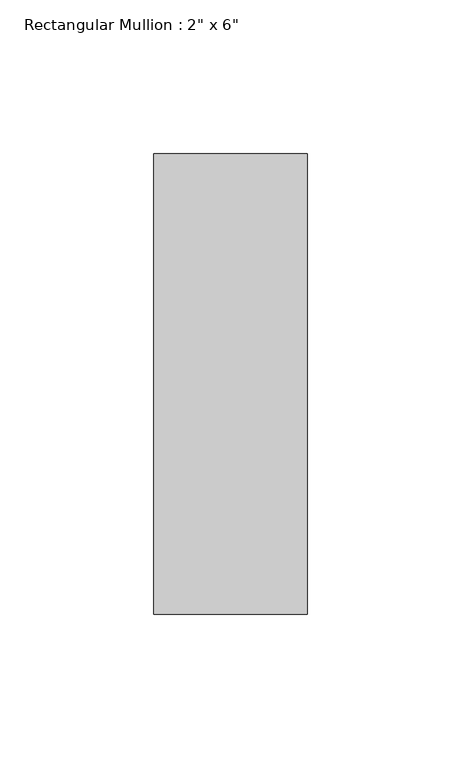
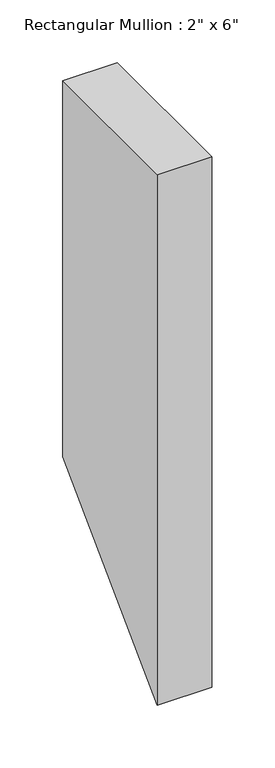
"""IFC4 building model written with IfcOpenShell, lengths in millimetres: member geometry."""

from ifc_helpers import new_model, si_unit, frame, origin, place, context, project, spatial, polyline, outline, extrude, source, transform, mapped, element, save


def member_0acf8ab8(model_context):
    return source(origin(), model_context, "Body", "SweptSolid", [
        extrude(outline(polyline([(0.0, 0.0), (150.0, 0.0), (150.0, -364.9999996), (0.0, -514.9999996), (0.0, 0.0)])), frame((-50.0, 0.0, 0.0), z_axis=(1.0, 0.0, 0.0), x_axis=(0.0, 1.0, 0.0)), (0.0, 0.0, 1.0), 50.0),
    ])


if __name__ == "__main__":
    model = new_model("IFC4")
    model_context = context("Model", 3, world=origin())
    ifc_project = project(units=[si_unit("LENGTHUNIT", "METRE", prefix="MILLI")], contexts=[model_context])
    site = spatial("IfcSite", under=ifc_project)
    building = spatial("IfcBuilding", under=site)
    placement = place(None, origin())
    member_shape = member_0acf8ab8(model_context)
    element("IfcMember", 1, ObjectType="Rectangular Mullion : 2\" x 6\"", at=placement, inside=building, context=model_context, shape_type="MappedRepresentation", body=[
        mapped(member_shape, transform((0.0, 0.0, 0.0), x_axis=(1.0, 0.0, 0.0), y_axis=(0.0, 1.0, 0.0), z_axis=(0.0, 0.0, 1.0))),
    ])
    save(model, "model.ifc")
